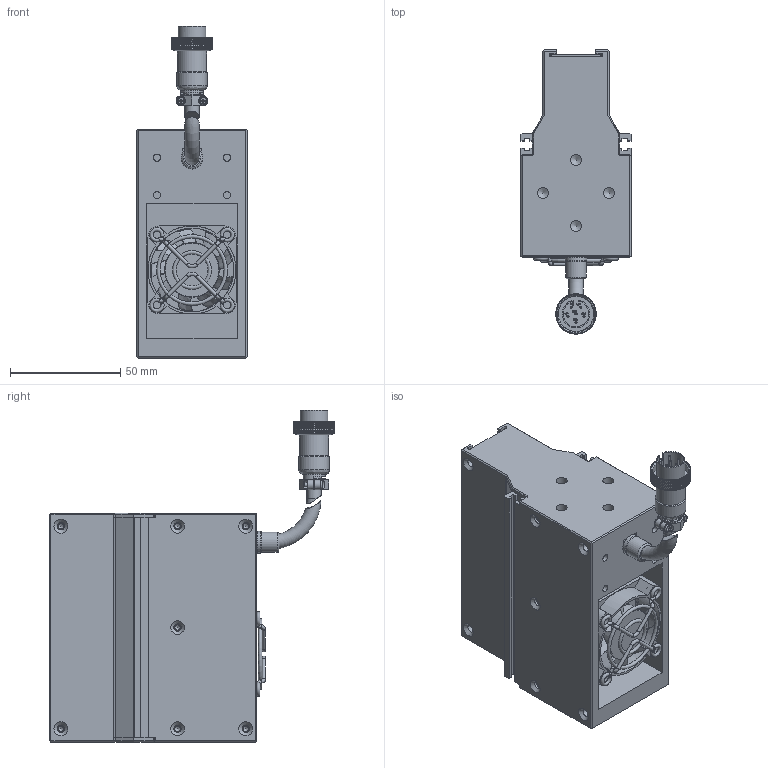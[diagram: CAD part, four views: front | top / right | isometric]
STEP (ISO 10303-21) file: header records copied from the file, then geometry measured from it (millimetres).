
FILE_DESCRIPTION (( 'STEP AP203' ), '1' );
FILE_NAME ('OPT-LSS104-W-V3.1U尨砩芞.STEP', '2025-01-20T07:05:33', ( 'USER' ), ( '' ), 'SwSTEP 2.0', 'SolidWorks 2016', '' );
FILE_SCHEMA (( 'CONFIG_CONTROL_DESIGN' ));
Products named in the file (2): OPT-LSS104-W-V3.1U尨砩芞
Bounding box: 50 x 129.15 x 150.83 mm (x, y, z)
Volume: 362806.5 mm3; surface area: 80025.5 mm2
Topology: 10 solids, 18 shells, 3495 faces, 7704 edges, 4291 vertices
Faces by surface type: bspline 2086, cylinder 686, plane 615, torus 63, cone 45
Full cylindrical faces by diameter (mm): 0.95 x6, 1.1 x2, 1.4 x2, 1.6 x4, 2 x5, 2.5 x14, 3.2 x8, 3.4 x14, 4 x4, 5 x8, 6.2 x4, 6.4 x3, 7.5 x1, 8.6 x1, 9.3 x1, 9.8 x1, 10 x1, 13.2 x1, 14 x1, 16.1 x1, 24.8 x1, 38 x1
Entity records: 118414 total; most frequent: CARTESIAN_POINT 60949, ORIENTED_EDGE 14988, EDGE_CURVE 7494, B_SPLINE_CURVE_WITH_KNOTS 5447, DIRECTION 5312, VERTEX_POINT 4240, EDGE_LOOP 3730, FACE_OUTER_BOUND 3605
